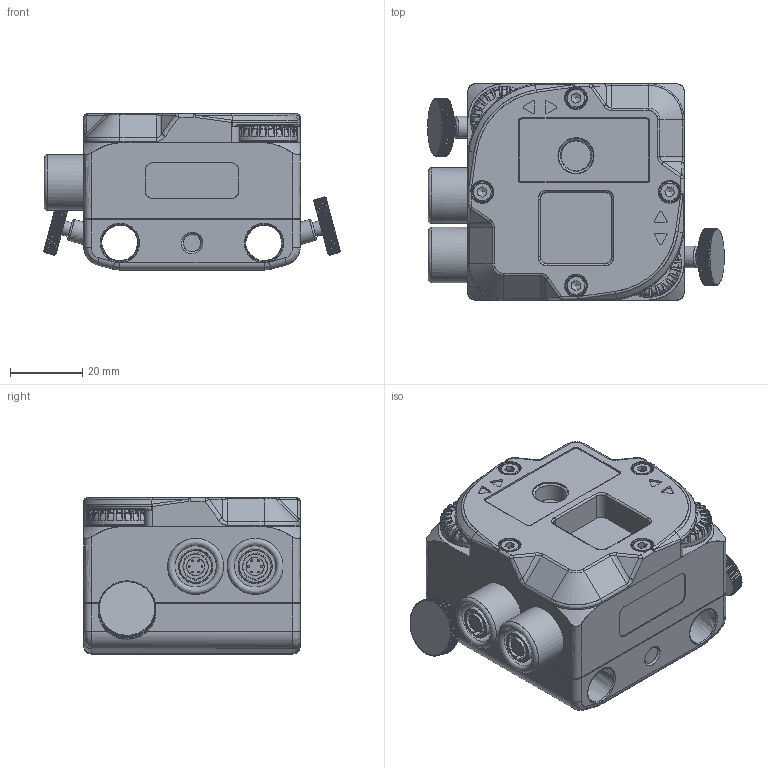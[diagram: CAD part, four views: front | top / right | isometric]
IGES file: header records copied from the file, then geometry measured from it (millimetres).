
Global section: file name: Y:\_LCPD Drawings\13.1 Lightweight Models\9936\LM-9936-0702 S UNIT\LM-9936-0702 S UNIT.igs; native system: NX V1926; preprocessor: SIEMENS PLM Software NX 1942; date: 20210308.143838; units: millimetre
Bounding box: 82.32 x 60 x 43.3 mm (x, y, z)
Surface area: 27356.5 mm2 (no closed solid volume)
Topology: 0 solids, 0 shells, 2246 faces, 12590 edges, 12284 vertices
Faces by surface type: bspline 2246
